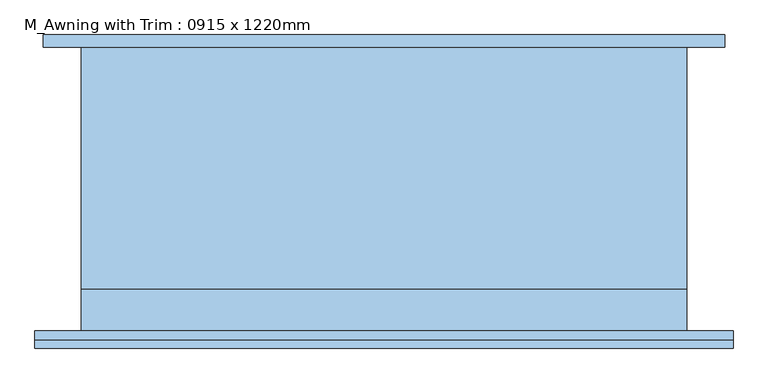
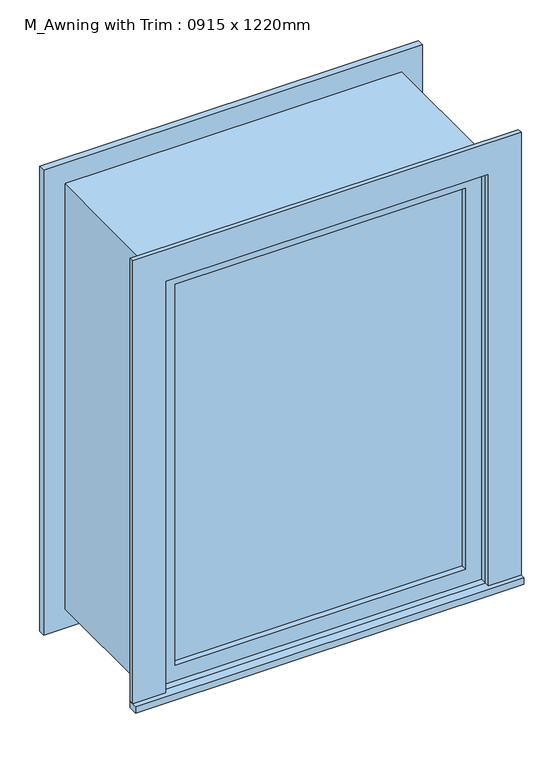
"""IFC4 building model written with IfcOpenShell, lengths in millimetres: window geometry, M_Awning with Trim : 0915 x 1220mm."""

from ifc_helpers import new_model, si_unit, frame, origin, place, context, project, spatial, polyline, outline, extrude, source, transform, mapped, element, save


def m_awning_with_trim_0915_x_1220mm_2caa384f(model_context):
    return source(origin(), model_context, "Body", "SweptSolid", [
        extrude(outline(polyline([(-527.45, -240.2), (-527.45, -214.5), (527.45, -214.5), (527.45, -240.2), (-527.45, -240.2)])), frame((0.0, 0.0, 915.0), z_axis=(0.0, 0.0, 1.0), x_axis=(1.0, 0.0, 0.0)), (0.0, 0.0, 1.0), 19.05),
        extrude(outline(polyline([(2115.95, -438.45), (2115.95, 438.45), (934.05, 438.45), (934.05, 527.45), (2204.95, 527.45), (2204.95, -527.45), (934.05, -527.45), (934.05, -438.45), (2115.95, -438.45)])), frame((0.0, -227.5, 0.0), z_axis=(0.0, 1.0, 0.0), x_axis=(0.0, 0.0, 1.0)), (0.0, 0.0, 1.0), 13.0),
        extrude(outline(polyline([(2192.25, 514.75), (2192.25, -514.75), (857.75, -514.75), (857.75, 514.75), (2192.25, 514.75)]), holes=[polyline([(2103.25, 425.75), (946.75, 425.75), (946.75, -425.75), (2103.25, -425.75), (2103.25, 425.75)])]), frame((0.0, 214.5, 0.0), z_axis=(0.0, 1.0, 0.0), x_axis=(0.0, 0.0, 1.0)), (0.0, 0.0, 1.0), 19.0),
        extrude(outline(polyline([(394.0, -166.925), (394.0, -179.625), (-394.0, -179.625), (-394.0, -166.925), (394.0, -166.925)])), frame((0.0, 0.0, 978.5), z_axis=(0.0, 0.0, 1.0), x_axis=(1.0, 0.0, 0.0)), (0.0, 0.0, 1.0), 1093.0),
        extrude(outline(polyline([(2115.95, -438.45), (934.05, -438.45), (934.05, 438.45), (2115.95, 438.45), (2115.95, -438.45)]), holes=[polyline([(2071.5, -394.0), (2071.5, 394.0), (978.5, 394.0), (978.5, -394.0), (2071.5, -394.0)])]), frame((0.0, -195.5, 0.0), z_axis=(0.0, 1.0, 0.0), x_axis=(0.0, 0.0, 1.0)), (0.0, 0.0, 1.0), 44.45),
        extrude(outline(polyline([(2135.0, -457.5), (915.0, -457.5), (915.0, 457.5), (2135.0, 457.5), (2135.0, -457.5)]), holes=[polyline([(2103.25, -425.75), (2103.25, 425.75), (946.75, 425.75), (946.75, -425.75), (2103.25, -425.75)])]), frame((0.0, -151.05, 0.0), z_axis=(0.0, 1.0, 0.0), x_axis=(0.0, 0.0, 1.0)), (0.0, 0.0, 1.0), 365.55),
        extrude(outline(polyline([(2135.0, 457.5), (2135.0, -457.5), (915.0, -457.5), (915.0, 457.5), (2135.0, 457.5)]), holes=[polyline([(2115.95, 438.45), (934.05, 438.45), (934.05, -438.45), (2115.95, -438.45), (2115.95, 438.45)])]), frame((0.0, -214.5, 0.0), z_axis=(0.0, 1.0, 0.0), x_axis=(0.0, 0.0, 1.0)), (0.0, 0.0, 1.0), 63.45),
    ])


if __name__ == "__main__":
    model = new_model("IFC4")
    model_context = context("Model", 3, world=origin())
    ifc_project = project(units=[si_unit("LENGTHUNIT", "METRE", prefix="MILLI")], contexts=[model_context])
    site = spatial("IfcSite", under=ifc_project)
    building = spatial("IfcBuilding", under=site)
    placement = place(None, origin())
    m_awning_with_trim_0915_x_1220mm_shape = m_awning_with_trim_0915_x_1220mm_2caa384f(model_context)
    element("IfcWindow", 1, ObjectType="M_Awning with Trim : 0915 x 1220mm", at=placement, inside=building, context=model_context, shape_type="MappedRepresentation", body=[
        mapped(m_awning_with_trim_0915_x_1220mm_shape, transform((0.0, 0.0, 0.0), x_axis=(1.0, 0.0, 0.0), y_axis=(0.0, 1.0, 0.0), z_axis=(0.0, 0.0, 1.0))),
    ])
    save(model, "model.ifc")
